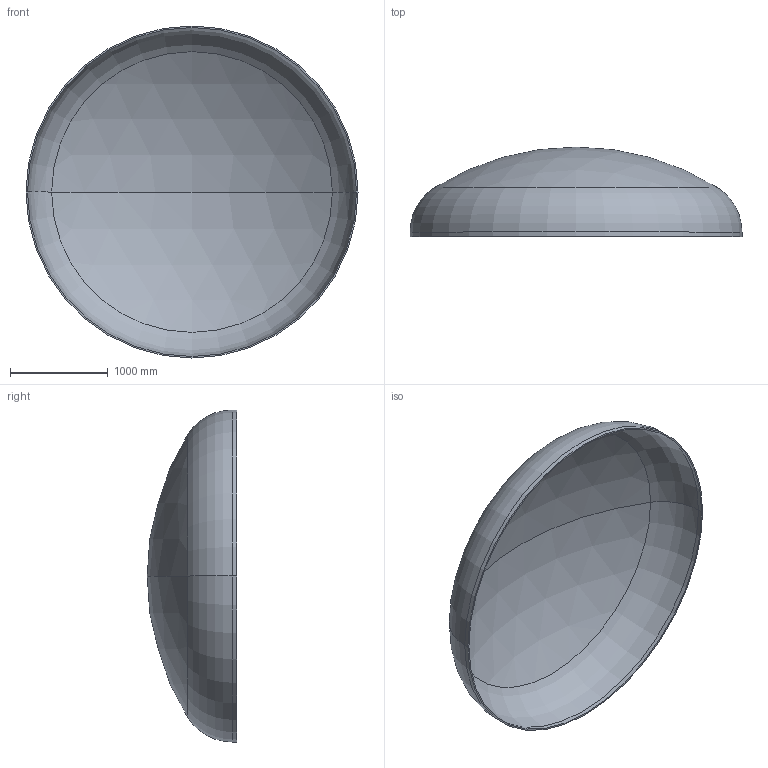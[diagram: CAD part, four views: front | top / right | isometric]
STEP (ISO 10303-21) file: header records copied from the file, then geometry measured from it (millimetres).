
FILE_DESCRIPTION (( 'STEP AP203' ), '1' );
FILE_NAME ('DIN 28013 Korbbogenform_-_Boden DIN 28013 - 3400 x 45 - I - s=15.step', '2016-07-01T19:13:00', ( '' ), ( '' ), 'SwSTEP 2.0', 'SolidWorks 2013', '' );
FILE_SCHEMA (( 'CONFIG_CONTROL_DESIGN' ));
Length unit declared in the file: millimetre
Products named in the file (1): DIN 28013 Korbbogenform_-_Boden DIN 28013 - 3400 x 45 - I - s=15
Bounding box: 3400 x 916.56 x 3400 mm (x, y, z)
Volume: 194805647 mm3; surface area: 26134061.5 mm2
Topology: 1 solids, 1 shells, 13 faces, 24 edges, 14 vertices
Faces by surface type: torus 4, cylinder 4, sphere 4, plane 1
Entity records: 407 total; most frequent: DIRECTION 72, CARTESIAN_POINT 52, ORIENTED_EDGE 48, AXIS2_PLACEMENT_3D 34, EDGE_CURVE 24, CIRCLE 20, VERTEX_POINT 14, EDGE_LOOP 14
